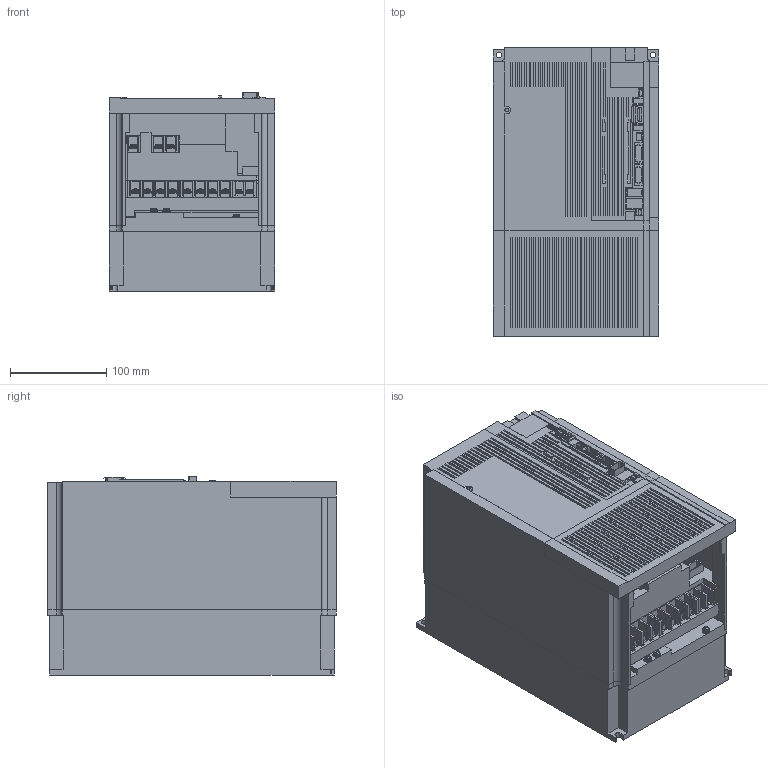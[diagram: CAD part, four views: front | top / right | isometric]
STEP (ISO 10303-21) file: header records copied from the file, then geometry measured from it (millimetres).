
FILE_DESCRIPTION((''),'2;1');
FILE_NAME('MR-J4-700BA_ASM','2011-12-01T',('JE18792'),(''),'PRO/ENGINEER BY PARAMETRIC TECHNOLOGY CORPORATION, 2010160','PRO/ENGINEER BY PARAMETRIC TECHNOLOGY CORPORATION, 2010160','');
FILE_SCHEMA(('CONFIG_CONTROL_DESIGN'));
Length unit declared in the file: millimetre
Products named in the file (21): J4-700-CHASSIS; J4-700-CASE; J4-700-FRONTCOVER; J4-700-FANCOVER; J4-500-700-SIDECOVER; J4-FRONTPANEL; J4-LENZ; J4B-CN1; J4B-CN2; J4B-CN3; J4B-CN4; J4B-CN5; J4B-CN8; J4-700-TE; J4-700-TE2; FAN60; SW-PW-P-NA-M4X12-PE; SW-PW-P-NA-M4X8; SW-PW-P-NA-M4X10; SW-PW-P-NA-M3_5X8; MR-J4-700BA_ASM
Assembly tree (36 placements, depth 2):
  MR-J4-700BA_ASM
    J4-700-CHASSIS
    J4-700-CASE
    J4-700-FRONTCOVER
    J4-700-FANCOVER
    J4-500-700-SIDECOVER
    J4-FRONTPANEL
    J4-LENZ
    J4B-CN1  x2
    J4B-CN2
    J4B-CN3
    J4B-CN4
    J4B-CN5
    J4B-CN8
    J4-700-TE  x3
    J4-700-TE2
    FAN60  x2
    SW-PW-P-NA-M4X12-PE  x2
    SW-PW-P-NA-M4X8
    SW-PW-P-NA-M4X10  x11
    SW-PW-P-NA-M3_5X8  x2
Bounding box: 172 x 300 x 205.95 mm (x, y, z)
Volume: 4196749.2 mm3; surface area: 701328.3 mm2
Topology: 38 solids, 38 shells, 1689 faces, 4382 edges, 2872 vertices
Faces by surface type: plane 1332, cylinder 261, cone 32, torus 32, sphere 32
Entity records: 39286 total; most frequent: CARTESIAN_POINT 6877, ORIENTED_EDGE 6696, DIRECTION 6357, EDGE_CURVE 3348, VECTOR 2953, LINE 2953, VERTEX_POINT 2222, AXIS2_PLACEMENT_3D 1702
